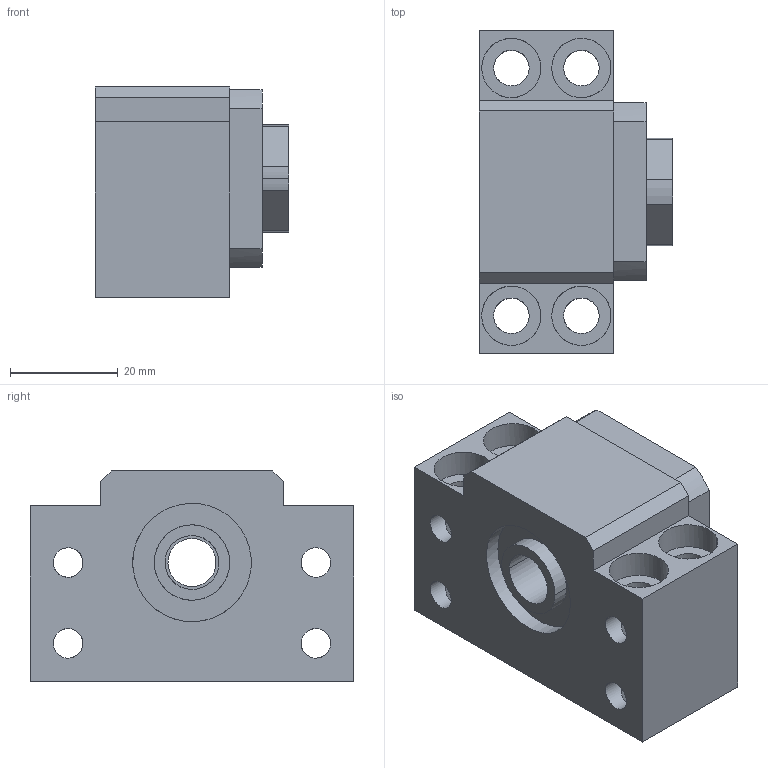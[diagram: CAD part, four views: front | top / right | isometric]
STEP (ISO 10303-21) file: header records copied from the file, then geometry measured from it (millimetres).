
FILE_DESCRIPTION(('CATIA V5 STEP Exchange'),'2;1');
FILE_NAME('D:\서포트 완성도면\BK\BK10.stp','2014-02-07T10:16:06+00:00',('none'),('none'),'CATIA Version 5 Release 18 GA (IN-10)','CATIA V5 STEP AP203','none');
FILE_SCHEMA(('CONFIG_CONTROL_DESIGN'));
Length unit declared in the file: millimetre
Products named in the file (1): BK10
Assembly tree (4 placements, depth 2):
  BK10
    #56
    #4329
    #4580
    #4831
Bounding box: 36 x 60 x 39 mm (x, y, z)
Volume: 51093 mm3; surface area: 16568.1 mm2
Topology: 4 solids, 4 shells, 105 faces, 312 edges, 208 vertices
Faces by surface type: cylinder 70, plane 35
Entity records: 5297 total; most frequent: CARTESIAN_POINT 2667, ORIENTED_EDGE 624, DIRECTION 343, EDGE_CURVE 312, VERTEX_POINT 208, B_SPLINE_CURVE_WITH_KNOTS 143, VECTOR 140, LINE 140
